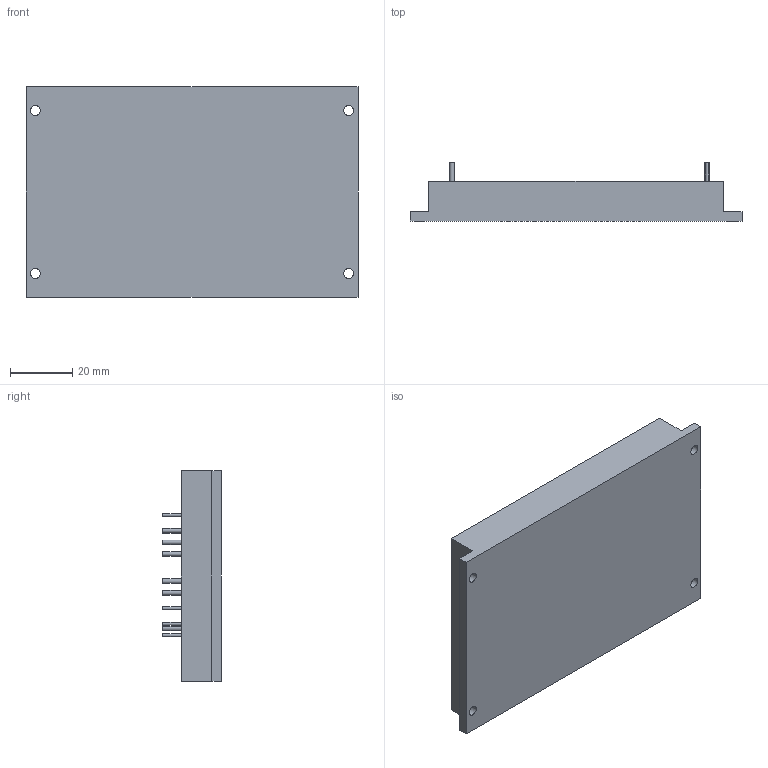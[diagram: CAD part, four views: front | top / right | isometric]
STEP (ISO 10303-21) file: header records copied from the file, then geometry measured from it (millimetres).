
FILE_DESCRIPTION((''),'2;1');
FILE_NAME('\\FILE-SERVER\Konstr\РАБОЧАЯ\Баранов А.Ю\Модули\2016\3Д модели МДМ\004 ТУ\МДМ160-1Н(М)УВ.stp','2016-02-18T16:33:35',('ABaranov'),(''),'Autodesk Inventor 2013','Autodesk Inventor 2013','');
FILE_SCHEMA(('AUTOMOTIVE_DESIGN { 1 0 10303 214 1 1 1 1 }'));
Length unit declared in the file: millimetre
Products named in the file (1): МДМ160-1Н(М)УВ
Bounding box: 107 x 18.85 x 67.7 mm (x, y, z)
Volume: 85089.1 mm3; surface area: 19133.6 mm2
Topology: 13 solids, 13 shells, 50 faces, 72 edges, 48 vertices
Faces by surface type: plane 34, cylinder 16
Full cylindrical faces by diameter (mm): 1 x4, 1.5 x8, 3.2 x4
Entity records: 1100 total; most frequent: DIRECTION 190, CARTESIAN_POINT 155, ORIENTED_EDGE 112, AXIS2_PLACEMENT_3D 83, EDGE_LOOP 74, EDGE_CURVE 56, FACE_OUTER_BOUND 50, ADVANCED_FACE 50
